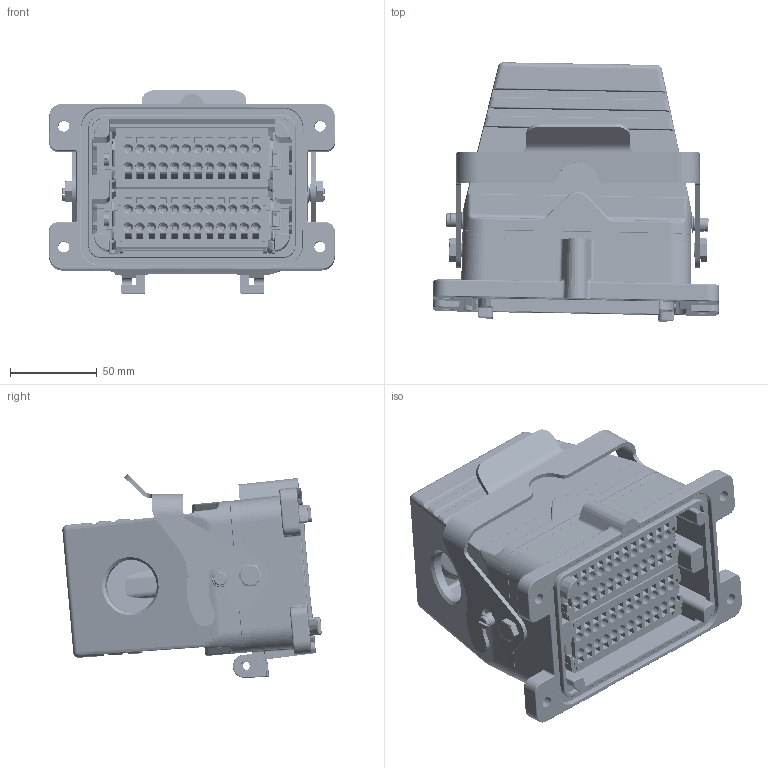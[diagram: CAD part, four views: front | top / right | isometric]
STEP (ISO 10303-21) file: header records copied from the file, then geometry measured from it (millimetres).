
FILE_DESCRIPTION (( 'STEP AP214' ), '1' );
FILE_NAME ('09148101132 HE、48针、开孔底座、侧出M32套件.STEP', '2024-05-06T05:25:28', ( 'L' ), ( '' ), 'SwSTEP 2.0', 'SolidWorks 2019', '' );
FILE_SCHEMA (( 'AUTOMOTIVE_DESIGN' ));
Length unit declared in the file: millimetre
Products named in the file (7): HESH-024-FD.stp; H48B-TS-M32.step; 09148101132 HE、48针、开孔底座、侧出M32套件; HESH-024-F.stp; H48B-AG.step; HESH-024-M.stp; HESH-024-MD.stp
Assembly tree (6 placements, depth 2):
  09148101132 HE、48针、开孔底座、侧出M32套件
    H48B-AG.step
    H48B-TS-M32.step
    HESH-024-M.stp
    HESH-024-MD.stp
    HESH-024-F.stp
    HESH-024-FD.stp
Bounding box: 165.25 x 149.73 x 117.72 mm (x, y, z)
Volume: 478624.4 mm3; surface area: 309372.2 mm2
Topology: 5 solids, 9 shells, 7720 faces, 20358 edges, 13014 vertices
Faces by surface type: plane 4182, cylinder 1734, cone 1148, bspline 441, sphere 108, torus 107
Entity records: 308495 total; most frequent: CARTESIAN_POINT 98082, ORIENTED_EDGE 40196, DIRECTION 35059, EDGE_CURVE 20106, VERTEX_POINT 13010, AXIS2_PLACEMENT_3D 11702, VECTOR 11655, LINE 11655
